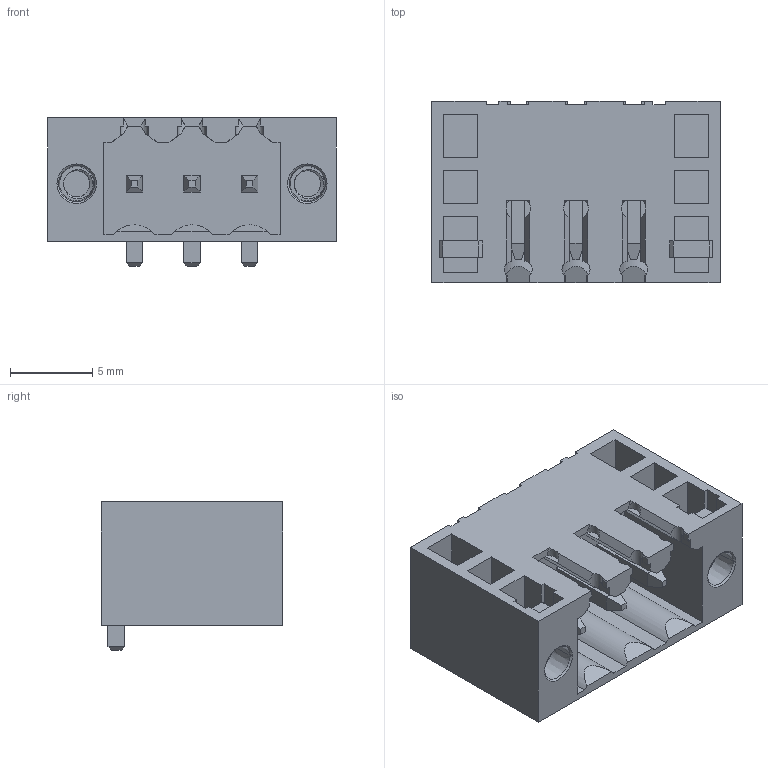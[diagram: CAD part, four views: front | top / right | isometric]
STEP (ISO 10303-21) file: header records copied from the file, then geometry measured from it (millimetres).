
FILE_DESCRIPTION((''),'2;1');
FILE_NAME('3PIN_SW0001','2019-05-27T',('zhenbing.lai'),(''),'CREO PARAMETRIC BY PTC INC, 2016260','CREO PARAMETRIC BY PTC INC, 2016260','');
FILE_SCHEMA(('CONFIG_CONTROL_DESIGN'));
Length unit declared in the file: millimetre
Products named in the file (1): 3PIN_SW0001
Bounding box: 17.5 x 11 x 9 mm (x, y, z)
Volume: 802 mm3; surface area: 1586.1 mm2
Topology: 1 solids, 1 shells, 331 faces, 917 edges, 598 vertices
Faces by surface type: plane 280, cylinder 31, cone 12, bspline 8
Entity records: 11934 total; most frequent: CARTESIAN_POINT 3544, ORIENTED_EDGE 1834, DIRECTION 1551, EDGE_CURVE 917, VECTOR 759, LINE 759, VERTEX_POINT 598, AXIS2_PLACEMENT_3D 396
